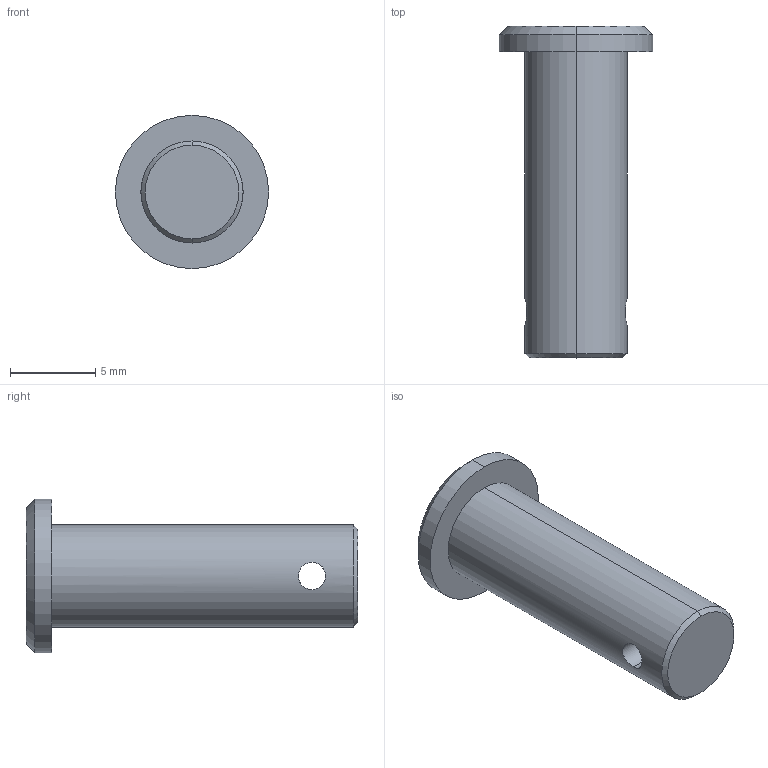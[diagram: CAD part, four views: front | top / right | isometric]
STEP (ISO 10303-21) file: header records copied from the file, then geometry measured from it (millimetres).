
FILE_DESCRIPTION (( 'STEP AP203' ), '1' );
FILE_NAME ('65660.W0106.step', '2023-10-06T09:58:33', ( '' ), ( '' ), 'SwSTEP 2.0', 'SolidWorks 2019', '' );
FILE_SCHEMA (( 'CONFIG_CONTROL_DESIGN' ));
Length unit declared in the file: millimetre
Products named in the file (1): 65660.W0106
Bounding box: 9 x 19.5 x 9 mm (x, y, z)
Volume: 588.4 mm3; surface area: 523 mm2
Topology: 1 solids, 1 shells, 13 faces, 26 edges, 16 vertices
Faces by surface type: cylinder 6, cone 4, plane 3
Entity records: 477 total; most frequent: CARTESIAN_POINT 120, DIRECTION 62, ORIENTED_EDGE 52, AXIS2_PLACEMENT_3D 26, EDGE_CURVE 26, EDGE_LOOP 16, VERTEX_POINT 16, FACE_OUTER_BOUND 13
